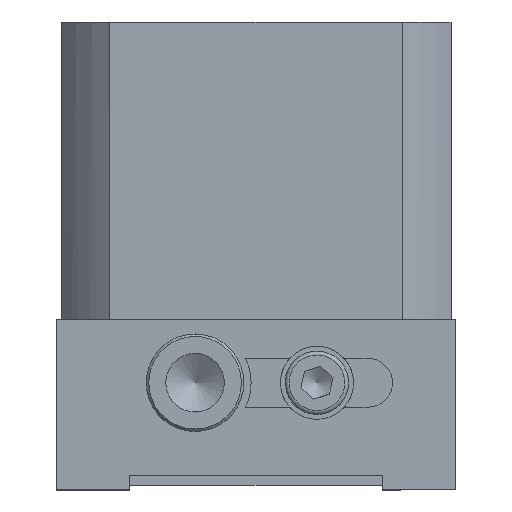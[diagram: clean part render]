
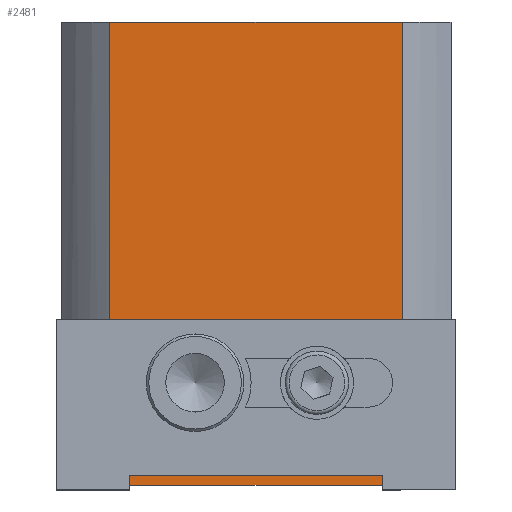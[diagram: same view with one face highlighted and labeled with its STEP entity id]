
A CAD part, left-side view. The second image highlights one B-rep face of the part: STEP entity #2481.
In plain terms, the highlighted planar face has unit normal (-1, 0, 0).
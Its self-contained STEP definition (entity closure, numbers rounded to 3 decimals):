
#2420=CARTESIAN_POINT('',(10.,80.0,50.0));
#2421=DIRECTION('',(-1.0,0.0,0.0));
#2422=DIRECTION('',(0.0,0.0,1.0));
#2423=AXIS2_PLACEMENT_3D('',#2420,#2421,#2422);
#2424=PLANE('',#2423);
#2425=CARTESIAN_POINT('',(10.,20.,50.0));
#2426=VERTEX_POINT('',#2425);
#2427=CARTESIAN_POINT('',(10.,20.,-45.0));
#2428=VERTEX_POINT('',#2427);
#2429=CARTESIAN_POINT('',(10.,20.,50.0));
#2430=DIRECTION('',(0.0,0.0,-1.0));
#2431=VECTOR('',#2430,95.0);
#2432=LINE('',#2429,#2431);
#2433=EDGE_CURVE('',#2426,#2428,#2432,.T.);
#2434=ORIENTED_EDGE('',*,*,#2433,.F.);
#2435=CARTESIAN_POINT('',(10.,80.0,50.0));
#2436=VERTEX_POINT('',#2435);
#2437=CARTESIAN_POINT('',(10.0,80.,50.0));
#2438=DIRECTION('',(0.0,-1.0,0.0));
#2439=VECTOR('',#2438,60.);
#2440=LINE('',#2437,#2439);
#2441=EDGE_CURVE('',#2436,#2426,#2440,.T.);
#2442=ORIENTED_EDGE('',*,*,#2441,.F.);
#2443=CARTESIAN_POINT('',(10.,80.,-45.0));
#2444=VERTEX_POINT('',#2443);
#2445=CARTESIAN_POINT('',(10.,80.0,50.0));
#2446=DIRECTION('',(0.0,0.0,-1.0));
#2447=VECTOR('',#2446,95.0);
#2448=LINE('',#2445,#2447);
#2449=EDGE_CURVE('',#2436,#2444,#2448,.T.);
#2450=ORIENTED_EDGE('',*,*,#2449,.T.);
#2451=CARTESIAN_POINT('',(10.,80.,-45.0));
#2452=DIRECTION('',(0.0,-1.0,0.0));
#2453=VECTOR('',#2452,60.);
#2454=LINE('',#2451,#2453);
#2455=EDGE_CURVE('',#2444,#2428,#2454,.T.);
#2456=ORIENTED_EDGE('',*,*,#2455,.T.);
#2457=EDGE_LOOP('',(#2434,#2442,#2450,#2456));
#2458=FACE_OUTER_BOUND('',#2457,.T.);
#2459=CARTESIAN_POINT('',(10.,62.5,-14.));
#2460=VERTEX_POINT('',#2459);
#2461=CARTESIAN_POINT('',(10.,62.5,-24.));
#2462=DIRECTION('',(-1.0,0.0,0.0));
#2463=DIRECTION('',(0.0,1.0,0.0));
#2464=AXIS2_PLACEMENT_3D('',#2461,#2462,#2463);
#2465=CIRCLE('',#2464,10.0);
#2466=EDGE_CURVE('',#2460,#2460,#2465,.T.);
#2467=ORIENTED_EDGE('',*,*,#2466,.F.);
#2468=EDGE_LOOP('',(#2467));
#2469=FACE_BOUND('',#2468,.T.);
#2470=CARTESIAN_POINT('',(10.,37.5,-14.));
#2471=VERTEX_POINT('',#2470);
#2472=CARTESIAN_POINT('',(10.,37.5,-24.));
#2473=DIRECTION('',(-1.0,0.0,0.0));
#2474=DIRECTION('',(0.0,-1.0,0.0));
#2475=AXIS2_PLACEMENT_3D('',#2472,#2473,#2474);
#2476=CIRCLE('',#2475,10.0);
#2477=EDGE_CURVE('',#2471,#2471,#2476,.T.);
#2478=ORIENTED_EDGE('',*,*,#2477,.F.);
#2479=EDGE_LOOP('',(#2478));
#2480=FACE_BOUND('',#2479,.T.);
#2481=ADVANCED_FACE('',(#2458,#2469,#2480),#2424,.T.);
